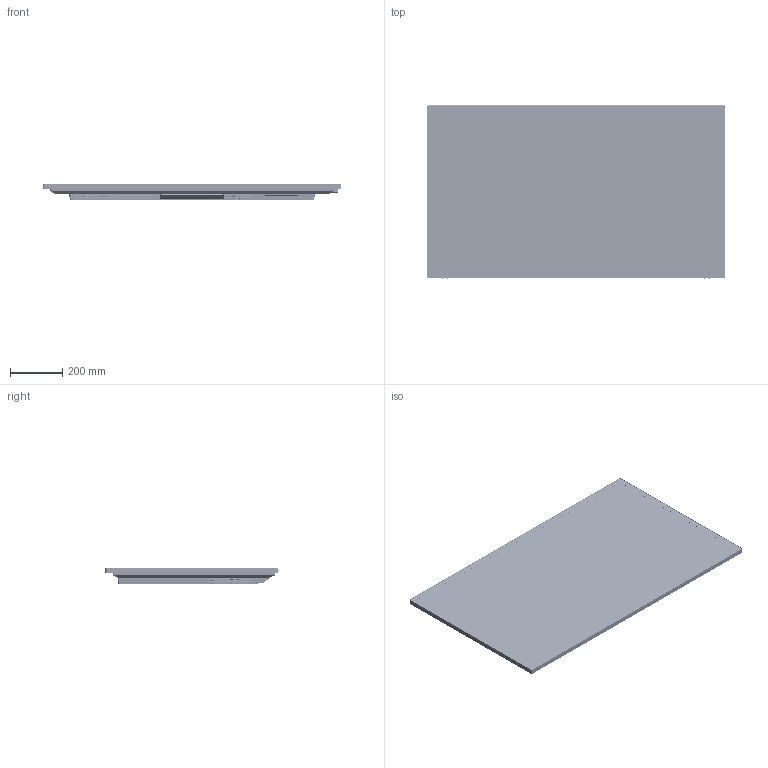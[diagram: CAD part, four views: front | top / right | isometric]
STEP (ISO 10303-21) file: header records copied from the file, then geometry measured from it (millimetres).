
FILE_DESCRIPTION (( 'STEP AP203' ), '1' );
FILE_NAME ('SLM502-T Panel 3D 122023.STEP', '2023-12-21T17:04:14', ( '' ), ( '' ), 'SwSTEP 2.0', 'SolidWorks 2023', '' );
FILE_SCHEMA (( 'CONFIG_CONTROL_DESIGN' ));
Products named in the file (1): SLM502-T Panel 3D 122023
Bounding box: 1140.84 x 661.76 x 62.96 mm (x, y, z)
Volume: 3835102.6 mm3; surface area: 5104842.3 mm2
Topology: 91 solids, 117 shells, 30128 faces, 84601 edges, 53713 vertices
Faces by surface type: plane 20715, cylinder 6405, bspline 1903, cone 631, torus 403, sphere 71
Entity records: 1133114 total; most frequent: CARTESIAN_POINT 375170, ORIENTED_EDGE 169082, DIRECTION 140096, EDGE_CURVE 84541, VECTOR 63052, LINE 63052, VERTEX_POINT 53712, AXIS2_PLACEMENT_3D 38522
